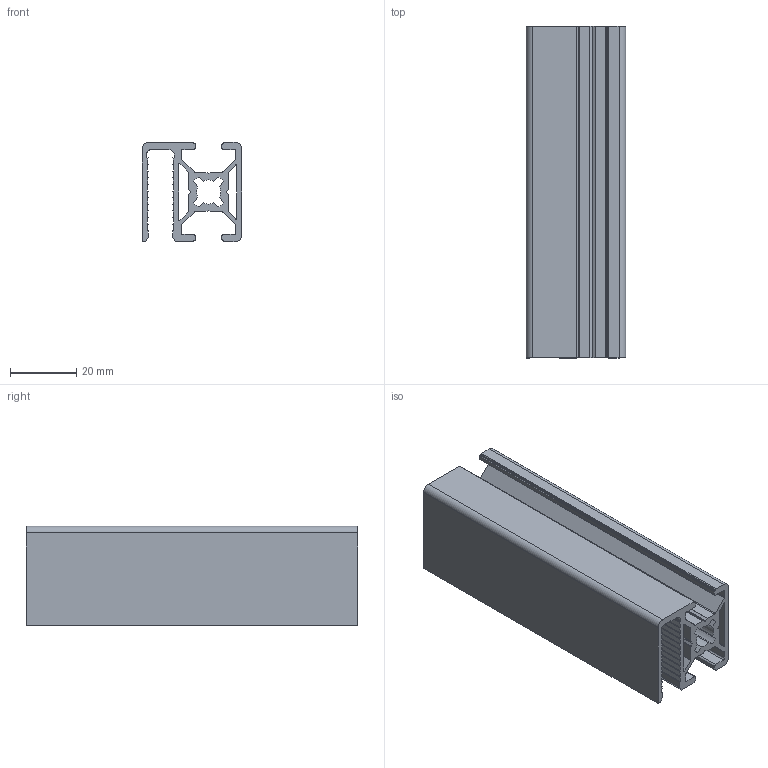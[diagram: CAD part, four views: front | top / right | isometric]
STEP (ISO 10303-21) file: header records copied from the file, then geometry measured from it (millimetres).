
FILE_DESCRIPTION( ( 'Unknown' ), '1' );
FILE_NAME( '//NAS_LAN/private_lan_Vol3/DB/Serie1/0044-B8-3030SG40-2014-09-15/B8-3030SG40.stp', 'Unknown', ( 'Unknown' ), ( 'Unknown' ), 'XStep 1.0', 'Unknown', ' ' );
FILE_SCHEMA( ( 'automotive_design' ) );
Length unit declared in the file: millimetre
Products named in the file (1): 1
Bounding box: 30 x 100 x 30 mm (x, y, z)
Volume: 31328.1 mm3; surface area: 35235.4 mm2
Topology: 1 solids, 1 shells, 169 faces, 501 edges, 334 vertices
Faces by surface type: plane 116, cylinder 53
Entity records: 7021 total; most frequent: CARTESIAN_POINT 1005, ORIENTED_EDGE 1002, DIRECTION 947, EDGE_CURVE 501, LINE 395, VECTOR 395, VERTEX_POINT 334, AXIS2_PLACEMENT_3D 276
